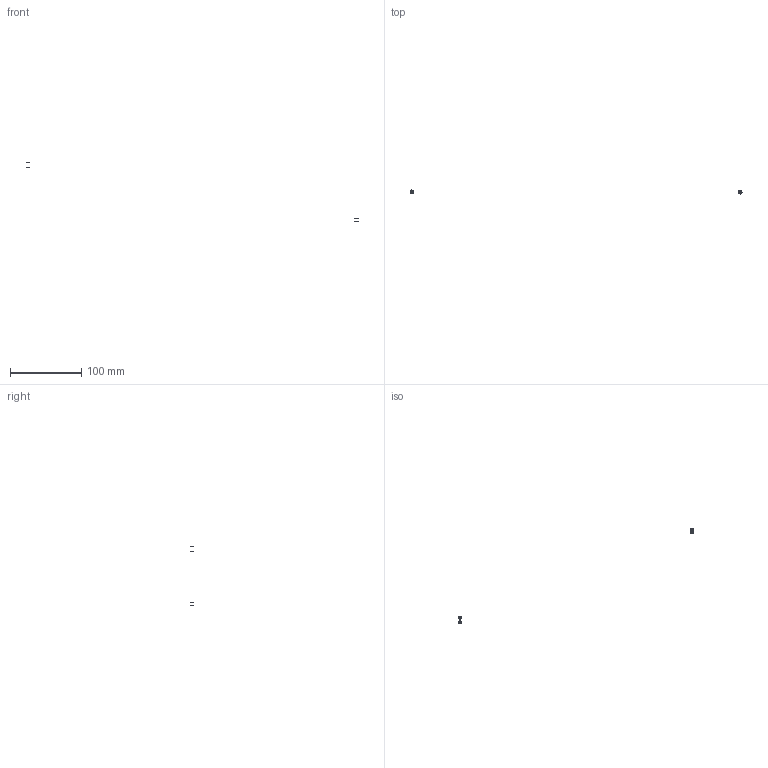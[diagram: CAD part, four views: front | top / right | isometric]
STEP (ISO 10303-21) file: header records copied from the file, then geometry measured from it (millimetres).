
FILE_DESCRIPTION(/* description */ (''),/* implementation_level */ '2;1');
FILE_NAME(/* name */ '8.x-drive#8.8#GTS3',/* time_stamp */ '2014-12-01T20:18:29+01:00',/* author */ (''),/* organization */ (''),/* preprocessor_version */ 'ST-DEVELOPER v14',/* originating_system */ '',/* authorisation */ '');
FILE_SCHEMA (('AUTOMOTIVE_DESIGN'));
Length unit declared in the file: millimetre
Products named in the file (2): Document; washer Schnorr-like, lock, M3
Assembly tree (2 placements, depth 2):
  Document
    washer Schnorr-like, lock, M3  x2
Bounding box: 467.5 x 5.5 x 84.2 mm (x, y, z)
Surface area: 176.1 mm2 (no closed solid volume)
Topology: 0 solids, 32 shells, 32 faces, 128 edges, 128 vertices
Faces by surface type: bspline 32
Entity records: 2175 total; most frequent: CARTESIAN_POINT 1061, B_SPLINE_CURVE_WITH_KNOTS 144, ORIENTED_EDGE 96, PCURVE 96, DEFINITIONAL_REPRESENTATION 96, SURFACE_CURVE 96, EDGE_CURVE 96, VERTEX_POINT 96
